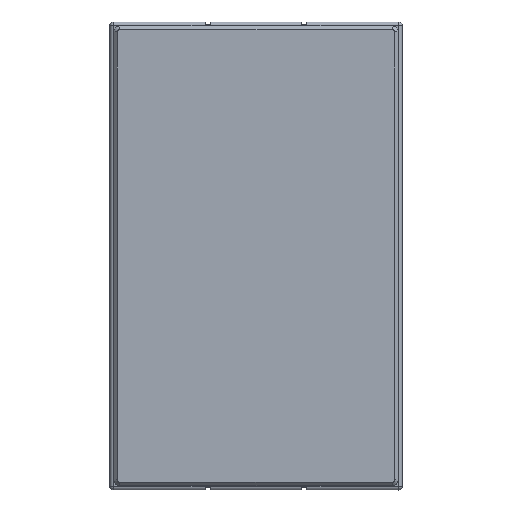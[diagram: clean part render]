
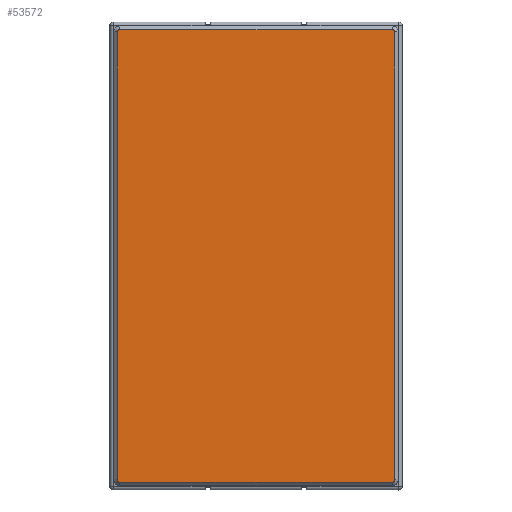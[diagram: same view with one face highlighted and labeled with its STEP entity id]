
A CAD part, top view. The second image highlights one B-rep face of the part: STEP entity #53572.
In plain terms, the highlighted planar face has unit normal (0, 0, 1).
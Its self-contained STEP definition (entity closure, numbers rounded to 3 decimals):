
#6079=FACE_OUTER_BOUND('',#9406,.T.);
#9406=EDGE_LOOP('',(#48941,#48942,#48943,#48944,#48945,#48946,#48947,#48948));
#11311=CIRCLE('',#58383,2.);
#11316=CIRCLE('',#58394,2.);
#11317=CIRCLE('',#58396,2.);
#11318=CIRCLE('',#58397,2.);
#15888=LINE('',#131787,#20481);
#15900=LINE('',#131821,#20493);
#15901=LINE('',#131828,#20494);
#15902=LINE('',#131831,#20495);
#20481=VECTOR('',#72446,233.);
#20493=VECTOR('',#72480,383.);
#20494=VECTOR('',#72489,233.);
#20495=VECTOR('',#72492,383.);
#25578=VERTEX_POINT('',#131781);
#25580=VERTEX_POINT('',#131785);
#25581=VERTEX_POINT('',#131789);
#25590=VERTEX_POINT('',#131817);
#25591=VERTEX_POINT('',#131819);
#25592=VERTEX_POINT('',#131825);
#25593=VERTEX_POINT('',#131827);
#25594=VERTEX_POINT('',#131829);
#33367=EDGE_CURVE('',#25580,#25578,#15888,.T.);
#33368=EDGE_CURVE('',#25581,#25578,#11311,.T.);
#33384=EDGE_CURVE('',#25591,#25590,#15900,.T.);
#33385=EDGE_CURVE('',#25580,#25590,#11316,.T.);
#33386=EDGE_CURVE('',#25591,#25592,#11317,.T.);
#33387=EDGE_CURVE('',#25593,#25592,#15901,.T.);
#33388=EDGE_CURVE('',#25593,#25594,#11318,.T.);
#33389=EDGE_CURVE('',#25581,#25594,#15902,.T.);
#48941=ORIENTED_EDGE('',*,*,#33368,.T.);
#48942=ORIENTED_EDGE('',*,*,#33367,.F.);
#48943=ORIENTED_EDGE('',*,*,#33385,.T.);
#48944=ORIENTED_EDGE('',*,*,#33384,.F.);
#48945=ORIENTED_EDGE('',*,*,#33386,.T.);
#48946=ORIENTED_EDGE('',*,*,#33387,.F.);
#48947=ORIENTED_EDGE('',*,*,#33388,.T.);
#48948=ORIENTED_EDGE('',*,*,#33389,.F.);
#50620=PLANE('',#58395);
#53572=ADVANCED_FACE('',(#6079),#50620,.T.);
#58383=AXIS2_PLACEMENT_3D('',#131790,#72449,#72450);
#58394=AXIS2_PLACEMENT_3D('',#131823,#72483,#72484);
#58395=AXIS2_PLACEMENT_3D('',#131824,#72485,#72486);
#58396=AXIS2_PLACEMENT_3D('',#131826,#72487,#72488);
#58397=AXIS2_PLACEMENT_3D('',#131830,#72490,#72491);
#72446=DIRECTION('',(1.,0.,0.));
#72449=DIRECTION('center_axis',(0.,0.,
1.));
#72450=DIRECTION('ref_axis',(1.,0.,0.));
#72480=DIRECTION('',(0.,1.,0.));
#72483=DIRECTION('center_axis',(0.,0.,
1.));
#72484=DIRECTION('ref_axis',(0.,1.,0.));
#72485=DIRECTION('center_axis',(0.,0.,
1.));
#72486=DIRECTION('ref_axis',(1.,0.,0.));
#72487=DIRECTION('center_axis',(0.,0.,
1.));
#72488=DIRECTION('ref_axis',(-1.,0.,0.));
#72489=DIRECTION('',(-1.,0.,0.));
#72490=DIRECTION('center_axis',(0.,0.,
1.));
#72491=DIRECTION('ref_axis',(0.,-1.,0.));
#72492=DIRECTION('',(0.,-1.,0.));
#131781=CARTESIAN_POINT('',(116.5,193.5,6.));
#131785=CARTESIAN_POINT('',(-116.5,193.5,6.));
#131787=CARTESIAN_POINT('',(-116.5,193.5,6.));
#131789=CARTESIAN_POINT('',(118.5,191.5,6.));
#131790=CARTESIAN_POINT('Origin',(116.5,191.5,6.));
#131817=CARTESIAN_POINT('',(-118.5,191.5,6.));
#131819=CARTESIAN_POINT('',(-118.5,-191.5,6.));
#131821=CARTESIAN_POINT('',(-118.5,-191.5,6.));
#131823=CARTESIAN_POINT('Origin',(-116.5,191.5,6.));
#131824=CARTESIAN_POINT('Origin',(0.,0.,
6.));
#131825=CARTESIAN_POINT('',(-116.5,-193.5,6.));
#131826=CARTESIAN_POINT('Origin',(-116.5,-191.5,6.));
#131827=CARTESIAN_POINT('',(116.5,-193.5,6.));
#131828=CARTESIAN_POINT('',(116.5,-193.5,6.));
#131829=CARTESIAN_POINT('',(118.5,-191.5,6.));
#131830=CARTESIAN_POINT('Origin',(116.5,-191.5,6.));
#131831=CARTESIAN_POINT('',(118.5,191.5,6.));
